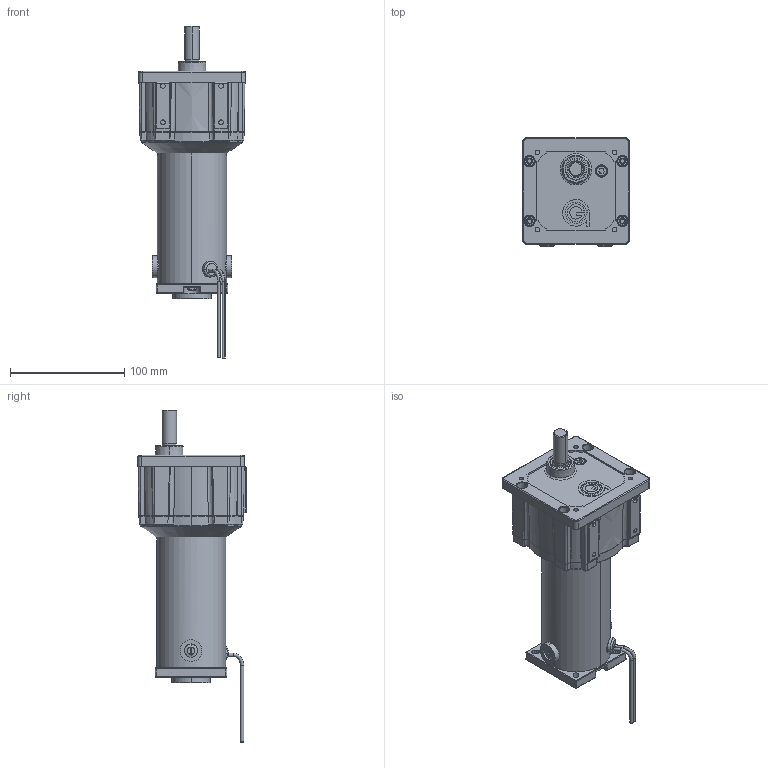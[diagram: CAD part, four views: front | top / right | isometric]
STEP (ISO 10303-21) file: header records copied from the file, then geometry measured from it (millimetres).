
FILE_DESCRIPTION (( 'STEP AP203' ), '1' );
FILE_NAME ('OUTLINE PM6015-PS1900.STEP', '2006-08-03T14:51:52', ( 'Eng-KVV2' ), ( 'Groschopp' ), 'SwSTEP 2.0', 'SolidWorks 2005339', '' );
FILE_SCHEMA (( 'CONFIG_CONTROL_DESIGN' ));
Length unit declared in the file: inch
Products named in the file (1): OUTLINE PM6015-PS1900
Bounding box: 92.68 x 94.35 x 289.98 mm (x, y, z)
Surface area: 82146.3 mm2 (no closed solid volume)
Topology: 0 solids, 26 shells, 602 faces, 1571 edges, 986 vertices
Faces by surface type: cylinder 189, plane 170, bspline 88, cone 82, torus 49, sphere 24
Entity records: 35398 total; most frequent: CARTESIAN_POINT 21128, DIRECTION 2958, ORIENTED_EDGE 2851, EDGE_CURVE 1555, AXIS2_PLACEMENT_3D 1167, VERTEX_POINT 982, EDGE_LOOP 663, CIRCLE 652
